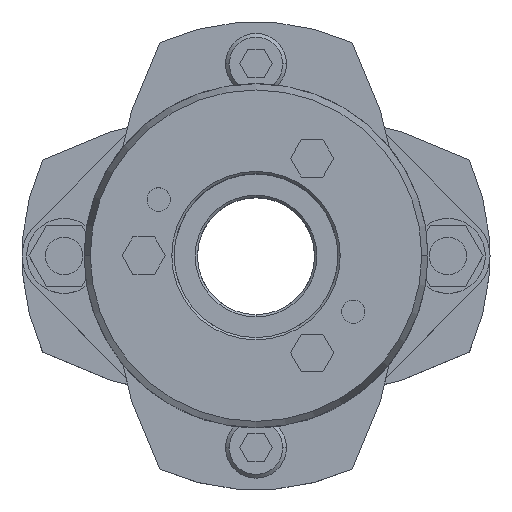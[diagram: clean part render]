
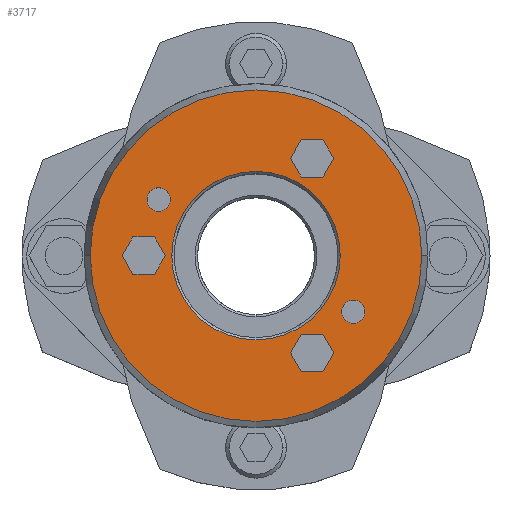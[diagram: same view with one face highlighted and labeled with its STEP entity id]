
A CAD part, top view. The second image highlights one B-rep face of the part: STEP entity #3717.
In plain terms, the highlighted planar face has unit normal (0, 0, 1).
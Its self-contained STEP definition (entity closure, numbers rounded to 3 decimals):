
#1471=CARTESIAN_POINT('',(-18.,0.,42.0));
#1472=VERTEX_POINT('',#1471);
#1488=CARTESIAN_POINT('',(18.,0.,42.0));
#1489=VERTEX_POINT('',#1488);
#1496=CARTESIAN_POINT('',(0.,0.,42.0));
#1497=DIRECTION('',(0.0,0.0,1.0));
#1498=DIRECTION('',(-1.0,0.0,0.0));
#1499=AXIS2_PLACEMENT_3D('',#1496,#1497,#1498);
#1500=CIRCLE('',#1499,18.0);
#1501=EDGE_CURVE('',#1489,#1472,#1500,.T.);
#1617=CARTESIAN_POINT('',(35.41,0.,42.0));
#1618=VERTEX_POINT('',#1617);
#1627=CARTESIAN_POINT('',(-35.41,0.,42.0));
#1628=VERTEX_POINT('',#1627);
#1629=CARTESIAN_POINT('',(0.,0.,42.0));
#1630=DIRECTION('',(0.0,0.0,-1.0));
#1631=DIRECTION('',(1.0,0.0,0.0));
#1632=AXIS2_PLACEMENT_3D('',#1629,#1630,#1631);
#1633=CIRCLE('',#1632,35.41);
#1634=EDGE_CURVE('',#1618,#1628,#1633,.T.);
#1803=CARTESIAN_POINT('',(18.285,-12.,42.0));
#1804=VERTEX_POINT('',#1803);
#1820=CARTESIAN_POINT('',(23.285,-12.,42.0));
#1821=VERTEX_POINT('',#1820);
#1828=CARTESIAN_POINT('',(20.785,-12.,42.0));
#1829=DIRECTION('',(0.0,0.0,-1.0));
#1830=DIRECTION('',(-1.0,0.0,0.0));
#1831=AXIS2_PLACEMENT_3D('',#1828,#1829,#1830);
#1832=CIRCLE('',#1831,2.5);
#1833=EDGE_CURVE('',#1804,#1821,#1832,.T.);
#1845=CARTESIAN_POINT('',(-23.285,12.,42.0));
#1846=VERTEX_POINT('',#1845);
#1862=CARTESIAN_POINT('',(-18.285,12.,42.0));
#1863=VERTEX_POINT('',#1862);
#1870=CARTESIAN_POINT('',(-20.785,12.,42.0));
#1871=DIRECTION('',(0.0,0.0,-1.0));
#1872=DIRECTION('',(-1.0,0.0,0.0));
#1873=AXIS2_PLACEMENT_3D('',#1870,#1871,#1872);
#1874=CIRCLE('',#1873,2.5);
#1875=EDGE_CURVE('',#1846,#1863,#1874,.T.);
#2626=CARTESIAN_POINT('',(-20.785,12.,42.0));
#2627=DIRECTION('',(0.0,0.0,-1.0));
#2628=DIRECTION('',(-1.0,0.0,0.0));
#2629=AXIS2_PLACEMENT_3D('',#2626,#2627,#2628);
#2630=CIRCLE('',#2629,2.5);
#2631=EDGE_CURVE('',#1863,#1846,#2630,.T.);
#2660=CARTESIAN_POINT('',(20.785,-12.,42.0));
#2661=DIRECTION('',(0.0,0.0,-1.0));
#2662=DIRECTION('',(-1.0,0.0,0.0));
#2663=AXIS2_PLACEMENT_3D('',#2660,#2661,#2662);
#2664=CIRCLE('',#2663,2.5);
#2665=EDGE_CURVE('',#1821,#1804,#2664,.T.);
#2703=CARTESIAN_POINT('',(7.381,20.785,42.0));
#2704=VERTEX_POINT('',#2703);
#2711=CARTESIAN_POINT('',(9.691,16.785,42.0));
#2712=VERTEX_POINT('',#2711);
#2713=CARTESIAN_POINT('',(9.691,16.785,42.0));
#2714=DIRECTION('',(-0.5,0.866,0.0));
#2715=VECTOR('',#2714,4.619);
#2716=LINE('',#2713,#2715);
#2717=EDGE_CURVE('',#2712,#2704,#2716,.T.);
#2741=CARTESIAN_POINT('',(9.691,24.785,42.0));
#2742=VERTEX_POINT('',#2741);
#2749=CARTESIAN_POINT('',(7.381,20.785,42.0));
#2750=DIRECTION('',(0.5,0.866,0.0));
#2751=VECTOR('',#2750,4.619);
#2752=LINE('',#2749,#2751);
#2753=EDGE_CURVE('',#2704,#2742,#2752,.T.);
#2772=CARTESIAN_POINT('',(14.309,24.785,42.0));
#2773=VERTEX_POINT('',#2772);
#2780=CARTESIAN_POINT('',(9.691,24.785,42.0));
#2781=DIRECTION('',(1.0,0.0,0.0));
#2782=VECTOR('',#2781,4.619);
#2783=LINE('',#2780,#2782);
#2784=EDGE_CURVE('',#2742,#2773,#2783,.T.);
#2803=CARTESIAN_POINT('',(16.619,20.785,42.0));
#2804=VERTEX_POINT('',#2803);
#2811=CARTESIAN_POINT('',(14.309,24.785,42.0));
#2812=DIRECTION('',(0.5,-0.866,0.0));
#2813=VECTOR('',#2812,4.619);
#2814=LINE('',#2811,#2813);
#2815=EDGE_CURVE('',#2773,#2804,#2814,.T.);
#2834=CARTESIAN_POINT('',(14.309,16.785,42.0));
#2835=VERTEX_POINT('',#2834);
#2842=CARTESIAN_POINT('',(16.619,20.785,42.0));
#2843=DIRECTION('',(-0.5,-0.866,0.0));
#2844=VECTOR('',#2843,4.619);
#2845=LINE('',#2842,#2844);
#2846=EDGE_CURVE('',#2804,#2835,#2845,.T.);
#2864=CARTESIAN_POINT('',(14.309,16.785,42.0));
#2865=DIRECTION('',(-1.0,0.0,0.0));
#2866=VECTOR('',#2865,4.619);
#2867=LINE('',#2864,#2866);
#2868=EDGE_CURVE('',#2835,#2712,#2867,.T.);
#2903=CARTESIAN_POINT('',(-28.619,0.,42.0));
#2904=VERTEX_POINT('',#2903);
#2911=CARTESIAN_POINT('',(-26.309,-4.,42.0));
#2912=VERTEX_POINT('',#2911);
#2913=CARTESIAN_POINT('',(-26.309,-4.,42.0));
#2914=DIRECTION('',(-0.5,0.866,0.0));
#2915=VECTOR('',#2914,4.619);
#2916=LINE('',#2913,#2915);
#2917=EDGE_CURVE('',#2912,#2904,#2916,.T.);
#2941=CARTESIAN_POINT('',(-26.309,4.,42.0));
#2942=VERTEX_POINT('',#2941);
#2949=CARTESIAN_POINT('',(-28.619,0.,42.0));
#2950=DIRECTION('',(0.5,0.866,0.0));
#2951=VECTOR('',#2950,4.619);
#2952=LINE('',#2949,#2951);
#2953=EDGE_CURVE('',#2904,#2942,#2952,.T.);
#2972=CARTESIAN_POINT('',(-21.691,4.,42.0));
#2973=VERTEX_POINT('',#2972);
#2980=CARTESIAN_POINT('',(-26.309,4.,42.0));
#2981=DIRECTION('',(1.0,0.0,0.0));
#2982=VECTOR('',#2981,4.619);
#2983=LINE('',#2980,#2982);
#2984=EDGE_CURVE('',#2942,#2973,#2983,.T.);
#3003=CARTESIAN_POINT('',(-19.381,0.,42.0));
#3004=VERTEX_POINT('',#3003);
#3011=CARTESIAN_POINT('',(-21.691,4.,42.0));
#3012=DIRECTION('',(0.5,-0.866,0.0));
#3013=VECTOR('',#3012,4.619);
#3014=LINE('',#3011,#3013);
#3015=EDGE_CURVE('',#2973,#3004,#3014,.T.);
#3034=CARTESIAN_POINT('',(-21.691,-4.,42.0));
#3035=VERTEX_POINT('',#3034);
#3042=CARTESIAN_POINT('',(-19.381,0.,42.0));
#3043=DIRECTION('',(-0.5,-0.866,0.0));
#3044=VECTOR('',#3043,4.619);
#3045=LINE('',#3042,#3044);
#3046=EDGE_CURVE('',#3004,#3035,#3045,.T.);
#3064=CARTESIAN_POINT('',(-21.691,-4.,42.0));
#3065=DIRECTION('',(-1.0,0.0,0.0));
#3066=VECTOR('',#3065,4.619);
#3067=LINE('',#3064,#3066);
#3068=EDGE_CURVE('',#3035,#2912,#3067,.T.);
#3103=CARTESIAN_POINT('',(7.381,-20.785,42.0));
#3104=VERTEX_POINT('',#3103);
#3111=CARTESIAN_POINT('',(9.691,-24.785,42.0));
#3112=VERTEX_POINT('',#3111);
#3113=CARTESIAN_POINT('',(9.691,-24.785,42.0));
#3114=DIRECTION('',(-0.5,0.866,0.0));
#3115=VECTOR('',#3114,4.619);
#3116=LINE('',#3113,#3115);
#3117=EDGE_CURVE('',#3112,#3104,#3116,.T.);
#3141=CARTESIAN_POINT('',(9.691,-16.785,42.0));
#3142=VERTEX_POINT('',#3141);
#3149=CARTESIAN_POINT('',(7.381,-20.785,42.0));
#3150=DIRECTION('',(0.5,0.866,0.0));
#3151=VECTOR('',#3150,4.619);
#3152=LINE('',#3149,#3151);
#3153=EDGE_CURVE('',#3104,#3142,#3152,.T.);
#3172=CARTESIAN_POINT('',(14.309,-16.785,42.0));
#3173=VERTEX_POINT('',#3172);
#3180=CARTESIAN_POINT('',(9.691,-16.785,42.0));
#3181=DIRECTION('',(1.0,0.0,0.0));
#3182=VECTOR('',#3181,4.619);
#3183=LINE('',#3180,#3182);
#3184=EDGE_CURVE('',#3142,#3173,#3183,.T.);
#3203=CARTESIAN_POINT('',(16.619,-20.785,42.0));
#3204=VERTEX_POINT('',#3203);
#3211=CARTESIAN_POINT('',(14.309,-16.785,42.0));
#3212=DIRECTION('',(0.5,-0.866,0.0));
#3213=VECTOR('',#3212,4.619);
#3214=LINE('',#3211,#3213);
#3215=EDGE_CURVE('',#3173,#3204,#3214,.T.);
#3234=CARTESIAN_POINT('',(14.309,-24.785,42.0));
#3235=VERTEX_POINT('',#3234);
#3242=CARTESIAN_POINT('',(16.619,-20.785,42.0));
#3243=DIRECTION('',(-0.5,-0.866,0.0));
#3244=VECTOR('',#3243,4.619);
#3245=LINE('',#3242,#3244);
#3246=EDGE_CURVE('',#3204,#3235,#3245,.T.);
#3264=CARTESIAN_POINT('',(14.309,-24.785,42.0));
#3265=DIRECTION('',(-1.0,0.0,0.0));
#3266=VECTOR('',#3265,4.619);
#3267=LINE('',#3264,#3266);
#3268=EDGE_CURVE('',#3235,#3112,#3267,.T.);
#3656=CARTESIAN_POINT('',(0.,0.,42.0));
#3657=DIRECTION('',(0.0,0.0,-1.0));
#3658=DIRECTION('',(1.0,0.0,0.0));
#3659=AXIS2_PLACEMENT_3D('',#3656,#3657,#3658);
#3660=CIRCLE('',#3659,35.41);
#3661=EDGE_CURVE('',#1628,#1618,#3660,.T.);
#3666=CARTESIAN_POINT('',(-3.114,0.,42.0));
#3667=DIRECTION('',(0.0,0.0,1.0));
#3668=DIRECTION('',(-1.0,0.0,0.0));
#3669=AXIS2_PLACEMENT_3D('',#3666,#3667,#3668);
#3670=PLANE('',#3669);
#3671=ORIENTED_EDGE('',*,*,#3661,.F.);
#3672=ORIENTED_EDGE('',*,*,#1634,.F.);
#3673=EDGE_LOOP('',(#3671,#3672));
#3674=FACE_OUTER_BOUND('',#3673,.T.);
#3675=ORIENTED_EDGE('',*,*,#1875,.T.);
#3676=ORIENTED_EDGE('',*,*,#2631,.T.);
#3677=EDGE_LOOP('',(#3675,#3676));
#3678=FACE_BOUND('',#3677,.T.);
#3679=ORIENTED_EDGE('',*,*,#1833,.T.);
#3680=ORIENTED_EDGE('',*,*,#2665,.T.);
#3681=EDGE_LOOP('',(#3679,#3680));
#3682=FACE_BOUND('',#3681,.T.);
#3683=ORIENTED_EDGE('',*,*,#2717,.T.);
#3684=ORIENTED_EDGE('',*,*,#2753,.T.);
#3685=ORIENTED_EDGE('',*,*,#2784,.T.);
#3686=ORIENTED_EDGE('',*,*,#2815,.T.);
#3687=ORIENTED_EDGE('',*,*,#2846,.T.);
#3688=ORIENTED_EDGE('',*,*,#2868,.T.);
#3689=EDGE_LOOP('',(#3683,#3684,#3685,#3686,#3687,#3688));
#3690=FACE_BOUND('',#3689,.T.);
#3691=ORIENTED_EDGE('',*,*,#2917,.T.);
#3692=ORIENTED_EDGE('',*,*,#2953,.T.);
#3693=ORIENTED_EDGE('',*,*,#2984,.T.);
#3694=ORIENTED_EDGE('',*,*,#3015,.T.);
#3695=ORIENTED_EDGE('',*,*,#3046,.T.);
#3696=ORIENTED_EDGE('',*,*,#3068,.T.);
#3697=EDGE_LOOP('',(#3691,#3692,#3693,#3694,#3695,#3696));
#3698=FACE_BOUND('',#3697,.T.);
#3699=ORIENTED_EDGE('',*,*,#3117,.T.);
#3700=ORIENTED_EDGE('',*,*,#3153,.T.);
#3701=ORIENTED_EDGE('',*,*,#3184,.T.);
#3702=ORIENTED_EDGE('',*,*,#3215,.T.);
#3703=ORIENTED_EDGE('',*,*,#3246,.T.);
#3704=ORIENTED_EDGE('',*,*,#3268,.T.);
#3705=EDGE_LOOP('',(#3699,#3700,#3701,#3702,#3703,#3704));
#3706=FACE_BOUND('',#3705,.T.);
#3707=ORIENTED_EDGE('',*,*,#1501,.F.);
#3708=CARTESIAN_POINT('',(0.,0.,42.0));
#3709=DIRECTION('',(0.0,0.0,1.0));
#3710=DIRECTION('',(-1.0,0.0,0.0));
#3711=AXIS2_PLACEMENT_3D('',#3708,#3709,#3710);
#3712=CIRCLE('',#3711,18.0);
#3713=EDGE_CURVE('',#1472,#1489,#3712,.T.);
#3714=ORIENTED_EDGE('',*,*,#3713,.F.);
#3715=EDGE_LOOP('',(#3707,#3714));
#3716=FACE_BOUND('',#3715,.T.);
#3717=ADVANCED_FACE('',(#3674,#3678,#3682,#3690,#3698,#3706,#3716),#3670,.T.);
